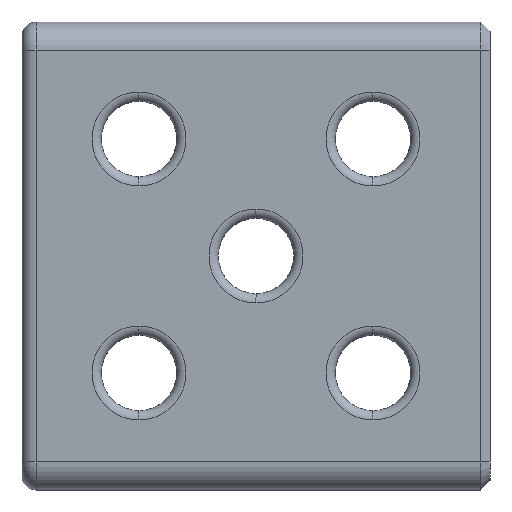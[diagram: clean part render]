
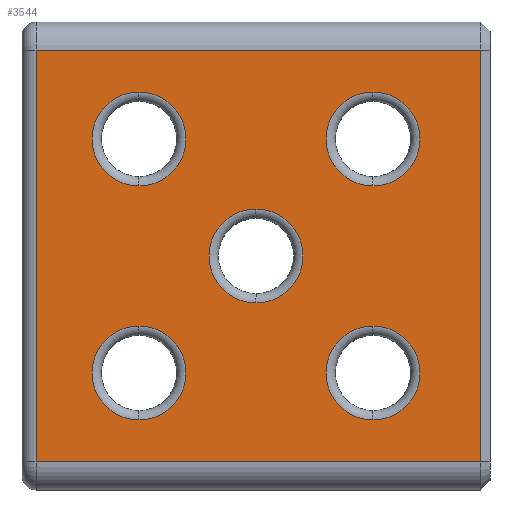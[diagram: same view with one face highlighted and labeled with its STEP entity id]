
A CAD part, left-side view. The second image highlights one B-rep face of the part: STEP entity #3544.
In plain terms, the highlighted planar face has unit normal (-1, 0, 0).
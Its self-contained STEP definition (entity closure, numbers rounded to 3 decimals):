
#5 = DIRECTION ( 'NONE',  ( 0., 0., 1. ) ) ;
#80 = AXIS2_PLACEMENT_3D ( 'NONE', #2234, #2242, #2226 ) ;
#137 = EDGE_CURVE ( 'NONE', #4548, #1476, #2120, .T. ) ;
#145 = EDGE_CURVE ( 'NONE', #895, #986, #4402, .T. ) ;
#153 = EDGE_CURVE ( 'NONE', #3428, #1074, #1035, .T. ) ;
#155 = FACE_BOUND ( 'NONE', #4799, .T. ) ;
#164 = EDGE_CURVE ( 'NONE', #4330, #4444, #5227, .T. ) ;
#175 = EDGE_CURVE ( 'NONE', #4444, #3482, #3202, .T. ) ;
#188 = EDGE_CURVE ( 'NONE', #3482, #1770, #1858, .T. ) ;
#191 = EDGE_CURVE ( 'NONE', #1770, #4330, #5110, .T. ) ;
#195 = EDGE_CURVE ( 'NONE', #1569, #241, #2951, .T. ) ;
#202 = EDGE_CURVE ( 'NONE', #2452, #3253, #5006, .T. ) ;
#206 = DIRECTION ( 'NONE',  ( 0., 0., 1. ) ) ;
#241 = VERTEX_POINT ( 'NONE', #1716 ) ;
#278 = EDGE_LOOP ( 'NONE', ( #2504, #2559 ) ) ;
#338 = CARTESIAN_POINT ( 'NONE',  ( -50., -25., 35.04 ) ) ;
#407 = CARTESIAN_POINT ( 'NONE',  ( -50., -98., 44. ) ) ;
#451 = DIRECTION ( 'NONE',  ( 1., 0., 0. ) ) ;
#521 = CARTESIAN_POINT ( 'NONE',  ( -50., -75., 35.04 ) ) ;
#565 = CIRCLE ( 'NONE', #2205, 10.04 ) ;
#589 = CARTESIAN_POINT ( 'NONE',  ( -50., -25., 25. ) ) ;
#783 = VECTOR ( 'NONE', #1931, 1000. ) ;
#823 = ORIENTED_EDGE ( 'NONE', *, *, #164, .T. ) ;
#855 = CARTESIAN_POINT ( 'NONE',  ( -50., -25., -35.04 ) ) ;
#895 = VERTEX_POINT ( 'NONE', #338 ) ;
#896 = FACE_BOUND ( 'NONE', #1873, .T. ) ;
#913 = VECTOR ( 'NONE', #2328, 1000. ) ;
#986 = VERTEX_POINT ( 'NONE', #3293 ) ;
#992 = DIRECTION ( 'NONE',  ( 0., 0., 1. ) ) ;
#1003 = EDGE_CURVE ( 'NONE', #1476, #4548, #1381, .T. ) ;
#1035 = CIRCLE ( 'NONE', #4868, 10.04 ) ;
#1074 = VERTEX_POINT ( 'NONE', #855 ) ;
#1238 = FACE_OUTER_BOUND ( 'NONE', #4795, .T. ) ;
#1381 = CIRCLE ( 'NONE', #4161, 10.04 ) ;
#1382 = CIRCLE ( 'NONE', #4495, 10.04 ) ;
#1476 = VERTEX_POINT ( 'NONE', #4101 ) ;
#1569 = VERTEX_POINT ( 'NONE', #5224 ) ;
#1592 = AXIS2_PLACEMENT_3D ( 'NONE', #2960, #5021, #2572 ) ;
#1620 = EDGE_CURVE ( 'NONE', #3253, #2452, #4874, .T. ) ;
#1677 = DIRECTION ( 'NONE',  ( 0., 0., 1. ) ) ;
#1716 = CARTESIAN_POINT ( 'NONE',  ( -50., -75., -35.04 ) ) ;
#1721 = ORIENTED_EDGE ( 'NONE', *, *, #137, .T. ) ;
#1733 = DIRECTION ( 'NONE',  ( 1., 0., 0. ) ) ;
#1746 = EDGE_CURVE ( 'NONE', #241, #1569, #4433, .T. ) ;
#1770 = VERTEX_POINT ( 'NONE', #3850 ) ;
#1773 = CARTESIAN_POINT ( 'NONE',  ( -50., -75., 25. ) ) ;
#1805 = DIRECTION ( 'NONE',  ( 0., 0., 1. ) ) ;
#1809 = DIRECTION ( 'NONE',  ( 1., 0., 0. ) ) ;
#1830 = CARTESIAN_POINT ( 'NONE',  ( -50., -75., -25. ) ) ;
#1854 = ORIENTED_EDGE ( 'NONE', *, *, #1003, .T. ) ;
#1858 = LINE ( 'NONE', #2067, #783 ) ;
#1873 = EDGE_LOOP ( 'NONE', ( #2685, #2944 ) ) ;
#1877 = CARTESIAN_POINT ( 'NONE',  ( -50., -3., -44. ) ) ;
#1915 = DIRECTION ( 'NONE',  ( 0., 0., -1. ) ) ;
#1928 = EDGE_CURVE ( 'NONE', #986, #895, #565, .T. ) ;
#1931 = DIRECTION ( 'NONE',  ( 0., 1., 0. ) ) ;
#1973 = EDGE_CURVE ( 'NONE', #1074, #3428, #1382, .T. ) ;
#1982 = ORIENTED_EDGE ( 'NONE', *, *, #1928, .T. ) ;
#2067 = CARTESIAN_POINT ( 'NONE',  ( -50., -100., 44. ) ) ;
#2079 = CARTESIAN_POINT ( 'NONE',  ( -50., -100., -44. ) ) ;
#2088 = CARTESIAN_POINT ( 'NONE',  ( -50., -98., 50. ) ) ;
#2102 = DIRECTION ( 'NONE',  ( 0., 0., 1. ) ) ;
#2106 = CARTESIAN_POINT ( 'NONE',  ( -50., -75., -25. ) ) ;
#2107 = CARTESIAN_POINT ( 'NONE',  ( -50., -25., -25. ) ) ;
#2114 = ORIENTED_EDGE ( 'NONE', *, *, #153, .T. ) ;
#2115 = DIRECTION ( 'NONE',  ( 1., 0., 0. ) ) ;
#2120 = CIRCLE ( 'NONE', #80, 10.04 ) ;
#2150 = DIRECTION ( 'NONE',  ( 0., 0., 1. ) ) ;
#2174 = DIRECTION ( 'NONE',  ( 1., 0., 0. ) ) ;
#2188 = CARTESIAN_POINT ( 'NONE',  ( -50., -25., 25. ) ) ;
#2205 = AXIS2_PLACEMENT_3D ( 'NONE', #589, #3514, #992 ) ;
#2212 = DIRECTION ( 'NONE',  ( 0., -1., 0. ) ) ;
#2226 = DIRECTION ( 'NONE',  ( 0., 0., 1. ) ) ;
#2234 = CARTESIAN_POINT ( 'NONE',  ( -50., -50., 0. ) ) ;
#2242 = DIRECTION ( 'NONE',  ( 1., 0., 0. ) ) ;
#2244 = ORIENTED_EDGE ( 'NONE', *, *, #1973, .T. ) ;
#2297 = ORIENTED_EDGE ( 'NONE', *, *, #175, .T. ) ;
#2328 = DIRECTION ( 'NONE',  ( 0., 0., 1. ) ) ;
#2354 = CARTESIAN_POINT ( 'NONE',  ( -50., -75., 14.96 ) ) ;
#2366 = ORIENTED_EDGE ( 'NONE', *, *, #188, .T. ) ;
#2447 = DIRECTION ( 'NONE',  ( 1., 0., 0. ) ) ;
#2452 = VERTEX_POINT ( 'NONE', #521 ) ;
#2504 = ORIENTED_EDGE ( 'NONE', *, *, #195, .T. ) ;
#2518 = DIRECTION ( 'NONE',  ( 0., 0., 1. ) ) ;
#2559 = ORIENTED_EDGE ( 'NONE', *, *, #1746, .T. ) ;
#2572 = DIRECTION ( 'NONE',  ( 0., 0., 1. ) ) ;
#2648 = DIRECTION ( 'NONE',  ( 1., 0., 0. ) ) ;
#2685 = ORIENTED_EDGE ( 'NONE', *, *, #202, .T. ) ;
#2827 = CARTESIAN_POINT ( 'NONE',  ( -50., -50., 10.04 ) ) ;
#2876 = CARTESIAN_POINT ( 'NONE',  ( -50., -50., 0. ) ) ;
#2944 = ORIENTED_EDGE ( 'NONE', *, *, #1620, .T. ) ;
#2951 = CIRCLE ( 'NONE', #4632, 10.04 ) ;
#2960 = CARTESIAN_POINT ( 'NONE',  ( -50., -100., 50. ) ) ;
#3051 = FACE_BOUND ( 'NONE', #4738, .T. ) ;
#3065 = VECTOR ( 'NONE', #2212, 1000. ) ;
#3202 = LINE ( 'NONE', #2088, #913 ) ;
#3253 = VERTEX_POINT ( 'NONE', #2354 ) ;
#3293 = CARTESIAN_POINT ( 'NONE',  ( -50., -25., 14.96 ) ) ;
#3314 = DIRECTION ( 'NONE',  ( 0., 0., 1. ) ) ;
#3426 = ORIENTED_EDGE ( 'NONE', *, *, #191, .T. ) ;
#3428 = VERTEX_POINT ( 'NONE', #3633 ) ;
#3462 = AXIS2_PLACEMENT_3D ( 'NONE', #4919, #2447, #5 ) ;
#3482 = VERTEX_POINT ( 'NONE', #407 ) ;
#3514 = DIRECTION ( 'NONE',  ( 1., 0., 0. ) ) ;
#3544 = ADVANCED_FACE ( 'NONE', ( #5212, #3051, #155, #1238, #4265, #896 ), #3919, .T. ) ;
#3633 = CARTESIAN_POINT ( 'NONE',  ( -50., -25., -14.96 ) ) ;
#3850 = CARTESIAN_POINT ( 'NONE',  ( -50., -3., 44. ) ) ;
#3919 = PLANE ( 'NONE',  #1592 ) ;
#4101 = CARTESIAN_POINT ( 'NONE',  ( -50., -50., -10.04 ) ) ;
#4116 = CARTESIAN_POINT ( 'NONE',  ( -50., -98., -44. ) ) ;
#4161 = AXIS2_PLACEMENT_3D ( 'NONE', #2876, #451, #3314 ) ;
#4265 = FACE_BOUND ( 'NONE', #278, .T. ) ;
#4283 = VECTOR ( 'NONE', #1915, 1000. ) ;
#4330 = VERTEX_POINT ( 'NONE', #4518 ) ;
#4400 = AXIS2_PLACEMENT_3D ( 'NONE', #1773, #1733, #1677 ) ;
#4402 = CIRCLE ( 'NONE', #5103, 10.04 ) ;
#4433 = CIRCLE ( 'NONE', #4815, 10.04 ) ;
#4444 = VERTEX_POINT ( 'NONE', #4116 ) ;
#4495 = AXIS2_PLACEMENT_3D ( 'NONE', #5095, #2648, #206 ) ;
#4518 = CARTESIAN_POINT ( 'NONE',  ( -50., -3., -44. ) ) ;
#4544 = ORIENTED_EDGE ( 'NONE', *, *, #145, .T. ) ;
#4548 = VERTEX_POINT ( 'NONE', #2827 ) ;
#4632 = AXIS2_PLACEMENT_3D ( 'NONE', #1830, #1809, #1805 ) ;
#4738 = EDGE_LOOP ( 'NONE', ( #4544, #1982 ) ) ;
#4795 = EDGE_LOOP ( 'NONE', ( #823, #2297, #2366, #3426 ) ) ;
#4799 = EDGE_LOOP ( 'NONE', ( #2114, #2244 ) ) ;
#4815 = AXIS2_PLACEMENT_3D ( 'NONE', #2106, #4977, #2518 ) ;
#4868 = AXIS2_PLACEMENT_3D ( 'NONE', #2107, #2115, #2102 ) ;
#4874 = CIRCLE ( 'NONE', #3462, 10.04 ) ;
#4919 = CARTESIAN_POINT ( 'NONE',  ( -50., -75., 25. ) ) ;
#4977 = DIRECTION ( 'NONE',  ( 1., 0., 0. ) ) ;
#5006 = CIRCLE ( 'NONE', #4400, 10.04 ) ;
#5021 = DIRECTION ( 'NONE',  ( -1., 0., 0. ) ) ;
#5095 = CARTESIAN_POINT ( 'NONE',  ( -50., -25., -25. ) ) ;
#5103 = AXIS2_PLACEMENT_3D ( 'NONE', #2188, #2174, #2150 ) ;
#5110 = LINE ( 'NONE', #1877, #4283 ) ;
#5180 = EDGE_LOOP ( 'NONE', ( #1721, #1854 ) ) ;
#5212 = FACE_BOUND ( 'NONE', #5180, .T. ) ;
#5224 = CARTESIAN_POINT ( 'NONE',  ( -50., -75., -14.96 ) ) ;
#5227 = LINE ( 'NONE', #2079, #3065 ) ;
